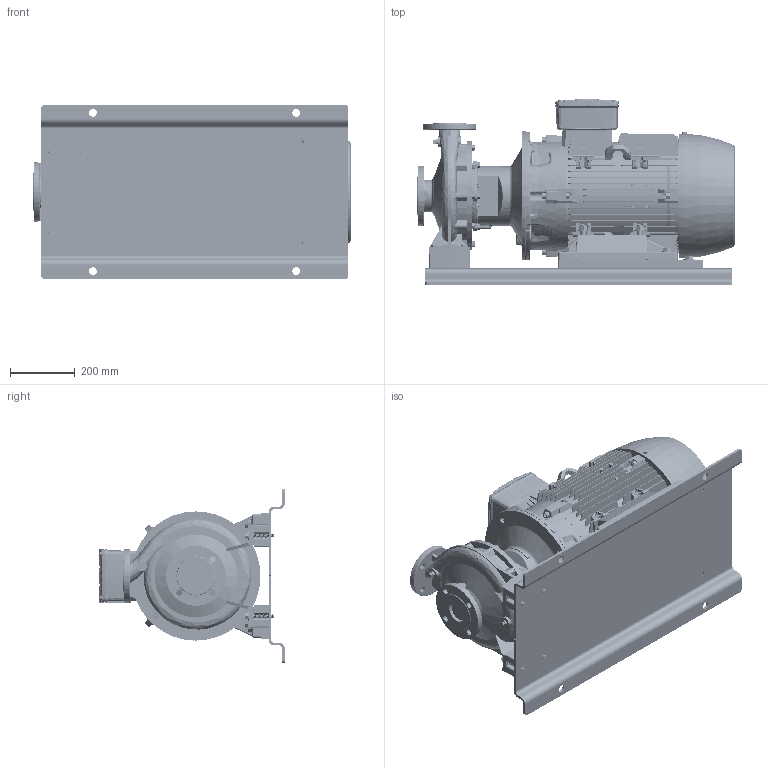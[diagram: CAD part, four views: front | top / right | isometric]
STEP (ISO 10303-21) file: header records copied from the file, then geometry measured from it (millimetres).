
FILE_DESCRIPTION (( 'STEP AP214' ), '1' );
FILE_NAME ('GSD2 50-250_30.0 & 37.0_(200ML)_W21_BP.STEP', '2024-04-30T05:10:21', ( '' ), ( '' ), 'SwSTEP 2.0', 'SolidWorks 2019', '' );
FILE_SCHEMA (( 'AUTOMOTIVE_DESIGN' ));
Length unit declared in the file: millimetre
Products named in the file (19): Parametric Nut_M12; Parametric bolt and washer_SFT-A355B; Parametric Flat Washer_M12; 80x25 - CGSDA-5271; Parametric bolt and washer_SFT-A359B; Parametric bolt_SFT-A353B; Parametric Stud Bolt_SFSK-AB299; Parametric bolt_SFT-A359B; N6S2 GSDA-624 F1-1832937-00; Parametric Flat Washer_M16; 200M_L ALIE3_W21T_B35; 50-250-200M_L; CGS11-5311_2_3_4_5_CGS11-5311; CGS11-5311_2_3_4_5_CGS11-5312; GSD2  50-250_30.0 & 37.0_(200ML)_W21_BP
Assembly tree (39 placements, depth 3):
  GSD2  50-250_30.0 & 37.0_(200ML)_W21_BP
    50-250-200M_L
    N6S2 GSDA-624 F1-1832937-00
    CGS11-5311_2_3_4_5_CGS11-5312  x2
    CGS11-5311_2_3_4_5_CGS11-5311  x2
    80x25 - CGSDA-5271  x2
    Parametric Stud Bolt_SFSK-AB299  x4
    Parametric Flat Washer_M12  x4
    Parametric Nut_M12  x4
    Parametric bolt and washer_SFT-A355B
      Parametric bolt_SFT-A353B
      Parametric Flat Washer_M16
    Parametric bolt and washer_SFT-A355B
      Parametric bolt_SFT-A353B
      Parametric Flat Washer_M16
    200M_L ALIE3_W21T_B35
    Parametric bolt and washer_SFT-A359B
      Parametric bolt_SFT-A359B
      Parametric Flat Washer_M16
    Parametric bolt and washer_SFT-A359B
      Parametric bolt_SFT-A359B
      Parametric Flat Washer_M16
    Parametric bolt and washer_SFT-A359B
      Parametric bolt_SFT-A359B
      Parametric Flat Washer_M16
    Parametric bolt and washer_SFT-A359B
      Parametric bolt_SFT-A359B
      Parametric Flat Washer_M16
Bounding box: 983.8 x 574.5 x 540 mm (x, y, z)
Volume: 86158149.3 mm3; surface area: 5623643 mm2
Topology: 63 solids, 74 shells, 8035 faces, 20920 edges, 13474 vertices
Faces by surface type: plane 4422, cylinder 1733, bspline 979, cone 666, torus 231, sphere 4
Entity records: 303289 total; most frequent: CARTESIAN_POINT 121356, ORIENTED_EDGE 37578, DIRECTION 30577, EDGE_CURVE 18789, VERTEX_POINT 12162, VECTOR 11335, LINE 11335, AXIS2_PLACEMENT_3D 9621
